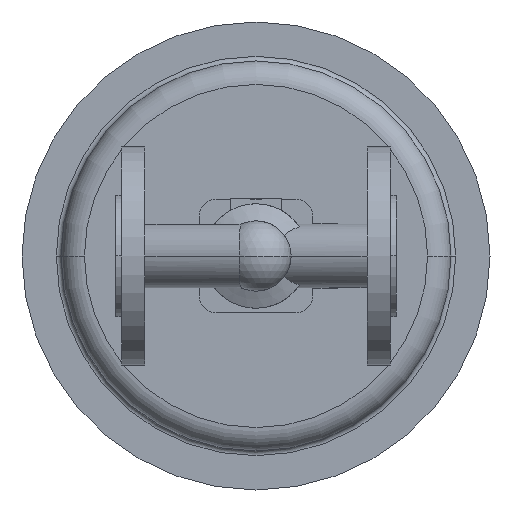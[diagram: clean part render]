
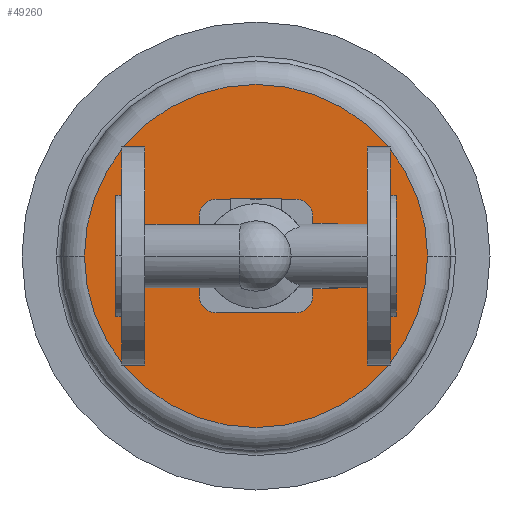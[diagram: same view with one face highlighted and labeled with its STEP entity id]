
A CAD part, front view. The second image highlights one B-rep face of the part: STEP entity #49260.
In plain terms, the highlighted planar face has unit normal (0, -1, 0).
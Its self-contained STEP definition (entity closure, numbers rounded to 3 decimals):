
#48430=CARTESIAN_POINT('',(71.55,541.5,0.));
#48440=VERTEX_POINT('',#48430);
#48470=CARTESIAN_POINT('',(90.,541.5,0.));
#48480=DIRECTION('',(0.,1.,0.));
#48490=DIRECTION('',(1.,0.,0.));
#48500=AXIS2_PLACEMENT_3D('',#48470,#48480,#48490);
#48510=CIRCLE('',#48500,18.45);
#48520=CARTESIAN_POINT('',(108.45,541.5,0.));
#48530=VERTEX_POINT('',#48520);
#48540=EDGE_CURVE('',#48440,#48530,#48510,.T.);
#48670=CARTESIAN_POINT('',(145.,541.5,0.));
#48680=DIRECTION('',(0.,-1.,0.));
#48690=DIRECTION('',(-1.,0.,0.));
#48700=AXIS2_PLACEMENT_3D('',#48670,#48680,#48690);
#48710=PLANE('',#48700);
#48720=ORIENTED_EDGE('',*,*,#48540,.T.);
#48730=EDGE_CURVE('',#48530,#48440,#48510,.T.);
#48740=ORIENTED_EDGE('',*,*,#48730,.T.);
#48750=EDGE_LOOP('',(#48740,#48720));
#48760=FACE_BOUND('',#48750,.T.);
#48770=CARTESIAN_POINT('',(40.,541.5,0.));
#48780=DIRECTION('',(0.,1.,0.));
#48790=DIRECTION('',(1.,0.,0.));
#48800=AXIS2_PLACEMENT_3D('',#48770,#48780,#48790);
#48810=CIRCLE('',#48800,15.);
#48820=CARTESIAN_POINT('',(55.,541.5,0.));
#48830=VERTEX_POINT('',#48820);
#48840=CARTESIAN_POINT('',(25.,541.5,0.));
#48850=VERTEX_POINT('',#48840);
#48860=EDGE_CURVE('',#48830,#48850,#48810,.T.);
#48870=ORIENTED_EDGE('',*,*,#48860,.T.);
#48880=EDGE_CURVE('',#48850,#48830,#48810,.T.);
#48890=ORIENTED_EDGE('',*,*,#48880,.T.);
#48900=EDGE_LOOP('',(#48890,#48870));
#48910=FACE_BOUND('',#48900,.T.);
#48920=CARTESIAN_POINT('',(140.,541.5,0.));
#48930=DIRECTION('',(0.,1.,0.));
#48940=DIRECTION('',(1.,0.,0.));
#48950=AXIS2_PLACEMENT_3D('',#48920,#48930,#48940);
#48960=CIRCLE('',#48950,15.);
#48970=CARTESIAN_POINT('',(155.,541.5,0.));
#48980=VERTEX_POINT('',#48970);
#48990=CARTESIAN_POINT('',(125.,541.5,0.));
#49000=VERTEX_POINT('',#48990);
#49010=EDGE_CURVE('',#48980,#49000,#48960,.T.);
#49020=ORIENTED_EDGE('',*,*,#49010,.T.);
#49030=EDGE_CURVE('',#49000,#48980,#48960,.T.);
#49040=ORIENTED_EDGE('',*,*,#49030,.T.);
#49050=EDGE_LOOP('',(#49040,#49020));
#49060=FACE_BOUND('',#49050,.T.);
#49070=CARTESIAN_POINT('',(90.,541.5,0.));
#49080=DIRECTION('',(0.,1.,0.));
#49090=DIRECTION('',(1.,0.,0.));
#49100=AXIS2_PLACEMENT_3D('',#49070,#49080,#49090);
#49110=CIRCLE('',#49100,110.);
#49120=CARTESIAN_POINT('',(90.,541.5,110.));
#49130=VERTEX_POINT('',#49120);
#49140=CARTESIAN_POINT('',(200.,541.5,0.));
#49150=VERTEX_POINT('',#49140);
#49160=EDGE_CURVE('',#49130,#49150,#49110,.T.);
#49170=ORIENTED_EDGE('',*,*,#49160,.F.);
#49180=CARTESIAN_POINT('',(-20.,541.5,0.));
#49190=VERTEX_POINT('',#49180);
#49200=EDGE_CURVE('',#49150,#49190,#49110,.T.);
#49210=ORIENTED_EDGE('',*,*,#49200,.F.);
#49220=EDGE_CURVE('',#49190,#49130,#49110,.T.);
#49230=ORIENTED_EDGE('',*,*,#49220,.F.);
#49240=EDGE_LOOP('',(#49230,#49210,#49170));
#49250=FACE_OUTER_BOUND('',#49240,.T.);
#49260=ADVANCED_FACE('',(#48760,#48910,#49060,#49250),#48710,.T.);
